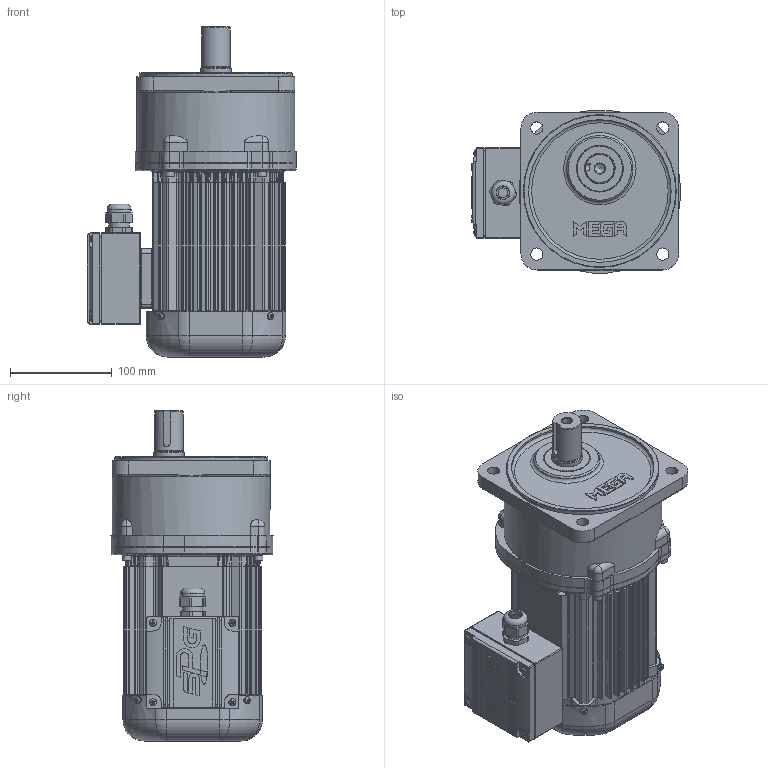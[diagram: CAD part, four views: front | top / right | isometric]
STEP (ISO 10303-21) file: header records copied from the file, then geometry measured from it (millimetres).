
FILE_DESCRIPTION(/* description */ (''),/* implementation_level */ '2;1');
FILE_NAME(/* name */ 'Z:\동력 3D 파일\PMK105-(5~100)-MA(B)040[ ]L_(3D).stp',/* time_stamp */ '2021-08-31T13:11:04+09:00',/* author */ ('jaebok'),/* organization */ (''),/* preprocessor_version */ 'ST-DEVELOPER v18.1',/* originating_system */ 'Autodesk Inventor 2022',/* authorisation */ '');
FILE_SCHEMA (('AUTOMOTIVE_DESIGN { 1 0 10303 214 3 1 1 }'));
Products named in the file (1): 부품6
Bounding box: 205.2 x 159.41 x 324 mm (x, y, z)
Volume: 1568657.8 mm3; surface area: 543849.4 mm2
Topology: 1 solids, 30 shells, 3176 faces, 8083 edges, 4786 vertices
Faces by surface type: plane 1011, cylinder 875, bspline 742, torus 298, cone 138, sphere 112
Full cylindrical faces by diameter (mm): 2 x1, 3.25 x1, 3.5 x4, 3.6 x4, 4 x21, 4.134 x4, 4.2 x4, 5 x19, 5.5 x4, 6 x5, 7 x12, 8 x5, 8.5 x4, 10 x2, 12 x4, 12.5 x1, 15 x1, 18 x1, 19 x2, 20 x2, 21 x1, 23.6 x1, 25 x1, 27.6 x1, 27.96 x1, 28 x1, 30 x6, 32 x1, 37 x2, 40 x2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
Entity records: 127549 total; most frequent: CARTESIAN_POINT 52131, ORIENTED_EDGE 15632, DIRECTION 14328, EDGE_CURVE 7816, AXIS2_PLACEMENT_3D 5743, VERTEX_POINT 4785, EDGE_LOOP 3368, STYLED_ITEM 3177
